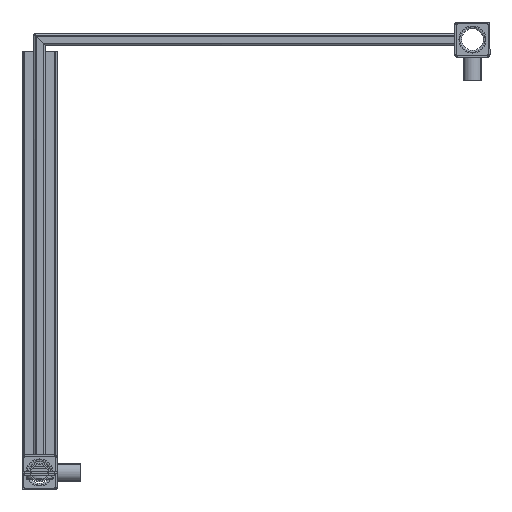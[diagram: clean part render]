
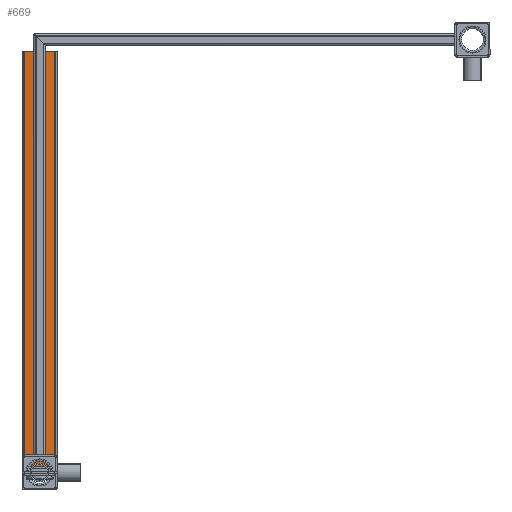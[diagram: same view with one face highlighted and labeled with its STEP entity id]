
A CAD part, front view. The second image highlights one B-rep face of the part: STEP entity #669.
In plain terms, the highlighted planar face has unit normal (0, -1, 0) as drawn and (0, 0, 1) by its records, which use the part's own axes.
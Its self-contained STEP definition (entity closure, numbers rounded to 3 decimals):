
#669 = ADVANCED_FACE( '', ( #1411 ), #1412, .T. );
#1411 = FACE_OUTER_BOUND( '', #2290, .T. );
#1412 = PLANE( '', #2291 );
#2290 = EDGE_LOOP( '', ( #4103, #4104, #4105, #4106 ) );
#2291 = AXIS2_PLACEMENT_3D( '', #4107, #4108, #4109 );
#4103 = ORIENTED_EDGE( '', *, *, #5692, .F. );
#4104 = ORIENTED_EDGE( '', *, *, #5548, .T. );
#4105 = ORIENTED_EDGE( '', *, *, #5767, .F. );
#4106 = ORIENTED_EDGE( '', *, *, #5168, .T. );
#4107 = CARTESIAN_POINT( '', ( 15., 389.28, 5. ) );
#4108 = DIRECTION( '', ( 0., 0., 1. ) );
#4109 = DIRECTION( '', ( 1., 0., 0. ) );
#5168 = EDGE_CURVE( '', #6232, #6230, #6233, .T. );
#5548 = EDGE_CURVE( '', #6844, #6848, #6850, .F. );
#5692 = EDGE_CURVE( '', #6844, #6230, #7053, .T. );
#5767 = EDGE_CURVE( '', #6232, #6848, #7154, .T. );
#6230 = VERTEX_POINT( '', #7728 );
#6232 = VERTEX_POINT( '', #7730 );
#6233 = LINE( '', #7731, #7732 );
#6844 = VERTEX_POINT( '', #8560 );
#6848 = VERTEX_POINT( '', #8565 );
#6850 = LINE( '', #8567, #8568 );
#7053 = LINE( '', #8840, #8841 );
#7154 = LINE( '', #8979, #8980 );
#7728 = CARTESIAN_POINT( '', ( -13., 25., 5. ) );
#7730 = CARTESIAN_POINT( '', ( -13., 380., 5. ) );
#7731 = CARTESIAN_POINT( '', ( -13., 389.28, 5. ) );
#7732 = VECTOR( '', #9429, 1000. );
#8560 = CARTESIAN_POINT( '', ( 13., 25., 5. ) );
#8565 = CARTESIAN_POINT( '', ( 13., 380., 5. ) );
#8567 = CARTESIAN_POINT( '', ( 13., 389.28, 5. ) );
#8568 = VECTOR( '', #9907, 1000. );
#8840 = CARTESIAN_POINT( '', ( 15., 25., 5. ) );
#8841 = VECTOR( '', #10082, 1000. );
#8979 = CARTESIAN_POINT( '', ( -15., 380., 5. ) );
#8980 = VECTOR( '', #10174, 1000. );
#9429 = DIRECTION( '', ( 0., -1., 0. ) );
#9907 = DIRECTION( '', ( 0., -1., 0. ) );
#10082 = DIRECTION( '', ( -1., 0., 0. ) );
#10174 = DIRECTION( '', ( 1., 0., 0. ) );
